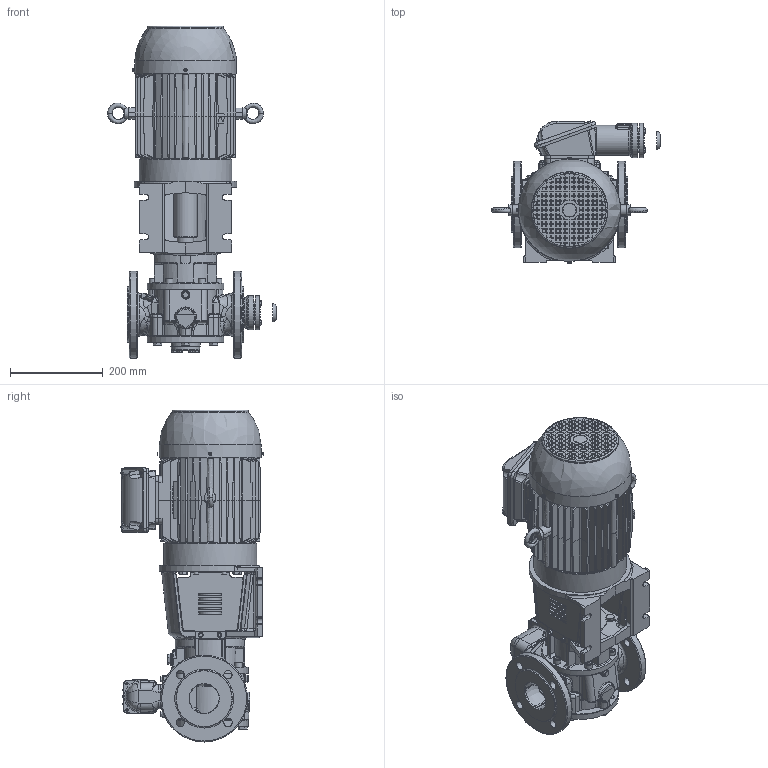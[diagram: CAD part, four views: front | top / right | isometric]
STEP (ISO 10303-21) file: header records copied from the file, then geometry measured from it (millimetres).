
FILE_DESCRIPTION(/* description */ (''),/* implementation_level */ '2;1');
FILE_NAME(/* name */ 'C:\V\JPP\Designs\GEAR PUMPS\PRODUCT ENGINEERING\EUROPE\TG BLOC\TG BLOC_23-65_R5_O_RV1-_112M-STEP.stp',/* time_stamp */ '2021-03-18T15:22:18+01:00',/* author */ ('A77THR'),/* organization */ (''),/* preprocessor_version */ 'ST-DEVELOPER v18.1',/* originating_system */ 'Autodesk Inventor 2020',/* authorisation */ '');
FILE_SCHEMA (('AUTOMOTIVE_DESIGN { 1 0 10303 214 3 1 1 }'));
Length unit declared in the file: millimetre
Products named in the file (1): TG BLOC_23-65_R5_O_RV1-_112M
Bounding box: 363.99 x 305.97 x 715.1 mm (x, y, z)
Volume: 18928197.6 mm3; surface area: 1220424.8 mm2
Topology: 1 solids, 1 shells, 4849 faces, 12327 edges, 7732 vertices
Faces by surface type: plane 2571, bspline 949, cylinder 722, cone 390, torus 152, sphere 65
Full cylindrical faces by diameter (mm): 4 x1, 4.5 x4, 4.917 x4, 5 x5, 5.459 x22, 6 x25, 6.647 x1, 7 x22, 8.376 x5, 8.5 x2, 8.7 x22, 9.188 x4, 10 x12, 10.5 x1, 11.445 x2, 11.5 x4, 12 x4, 15.011 x3, 15.4 x14, 16 x6, 17.9 x3, 18 x11, 19 x3, 21.939 x1, 25.9 x1, 26 x1, 27.6 x1, 28 x1, 29.4 x1, 30 x2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
Entity records: 204033 total; most frequent: CARTESIAN_POINT 90032, ORIENTED_EDGE 24416, DIRECTION 20342, EDGE_CURVE 12208, VERTEX_POINT 7732, AXIS2_PLACEMENT_3D 7094, LINE 6154, VECTOR 6154
